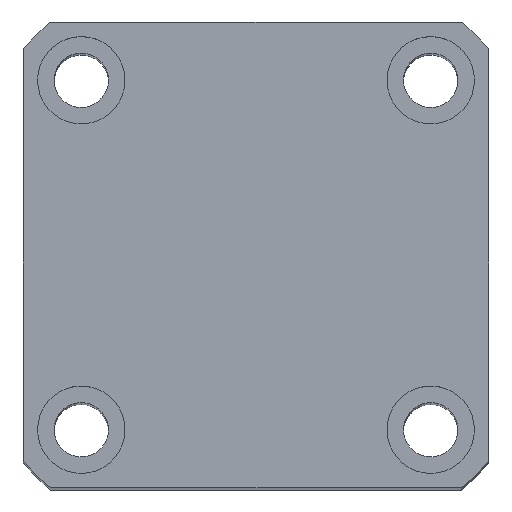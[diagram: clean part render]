
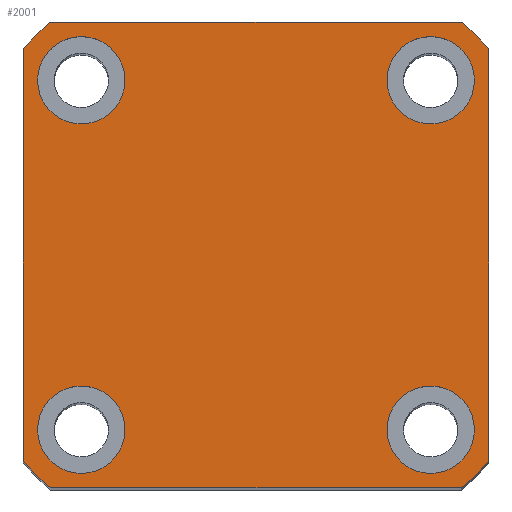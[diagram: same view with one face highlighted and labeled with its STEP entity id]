
A CAD part, top view. The second image highlights one B-rep face of the part: STEP entity #2001.
In plain terms, the highlighted planar face has unit normal (0, 0, 1) as drawn and (1, 0, 0) by its records, which use the part's own axes.
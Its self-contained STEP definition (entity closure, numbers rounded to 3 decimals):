
#103 = CARTESIAN_POINT ( 'NONE',  ( 120., -24., 21.166 ) ) ;
#119 = DIRECTION ( 'NONE',  ( 0., 0., -1. ) ) ;
#204 = VERTEX_POINT ( 'NONE', #2451 ) ;
#418 = ORIENTED_EDGE ( 'NONE', *, *, #2774, .F. ) ;
#518 = VERTEX_POINT ( 'NONE', #3971 ) ;
#542 = DIRECTION ( 'NONE',  ( 1., 0., 0. ) ) ;
#568 = AXIS2_PLACEMENT_3D ( 'NONE', #6995, #3372, #7594 ) ;
#570 = CARTESIAN_POINT ( 'NONE',  ( 120., -18., -13.5 ) ) ;
#622 = AXIS2_PLACEMENT_3D ( 'NONE', #5365, #5288, #5206 ) ;
#765 = CARTESIAN_POINT ( 'NONE',  ( 120., -18., 18. ) ) ;
#792 = DIRECTION ( 'NONE',  ( 1., 0., 0. ) ) ;
#834 = VERTEX_POINT ( 'NONE', #7375 ) ;
#854 = DIRECTION ( 'NONE',  ( 1., 0., 0. ) ) ;
#932 = EDGE_CURVE ( 'NONE', #2044, #6137, #6318, .T. ) ;
#1179 = CARTESIAN_POINT ( 'NONE',  ( 120., -18., -22.5 ) ) ;
#1214 = FACE_BOUND ( 'NONE', #3570, .T. ) ;
#1225 = EDGE_LOOP ( 'NONE', ( #7751, #1446 ) ) ;
#1232 = VECTOR ( 'NONE', #5180, 1000. ) ;
#1252 = EDGE_CURVE ( 'NONE', #204, #518, #2801, .T. ) ;
#1380 = CARTESIAN_POINT ( 'NONE',  ( 120., -18., 13.5 ) ) ;
#1425 = DIRECTION ( 'NONE',  ( 0., 0., -1. ) ) ;
#1446 = ORIENTED_EDGE ( 'NONE', *, *, #6599, .F. ) ;
#1447 = CIRCLE ( 'NONE', #4514, 4.5 ) ;
#1450 = AXIS2_PLACEMENT_3D ( 'NONE', #2194, #6473, #2832 ) ;
#1724 = ORIENTED_EDGE ( 'NONE', *, *, #2722, .F. ) ;
#1790 = EDGE_CURVE ( 'NONE', #6442, #2048, #3662, .T. ) ;
#1803 = CIRCLE ( 'NONE', #622, 4.5 ) ;
#1919 = CIRCLE ( 'NONE', #6148, 4.5 ) ;
#1945 = EDGE_CURVE ( 'NONE', #6848, #5164, #1803, .T. ) ;
#2001 = ADVANCED_FACE ( 'NONE', ( #1214, #2674, #4334, #7525, #7326 ), #4910, .T. ) ;
#2037 = ORIENTED_EDGE ( 'NONE', *, *, #3239, .T. ) ;
#2044 = VERTEX_POINT ( 'NONE', #4094 ) ;
#2048 = VERTEX_POINT ( 'NONE', #3883 ) ;
#2194 = CARTESIAN_POINT ( 'NONE',  ( 120., 0., 0. ) ) ;
#2323 = CIRCLE ( 'NONE', #568, 32. ) ;
#2451 = CARTESIAN_POINT ( 'NONE',  ( 120., 24., -21.166 ) ) ;
#2456 = EDGE_CURVE ( 'NONE', #7725, #4564, #3267, .T. ) ;
#2661 = EDGE_CURVE ( 'NONE', #4771, #4131, #7931, .T. ) ;
#2674 = FACE_BOUND ( 'NONE', #5090, .T. ) ;
#2722 = EDGE_CURVE ( 'NONE', #3060, #5446, #5099, .T. ) ;
#2774 = EDGE_CURVE ( 'NONE', #5164, #6848, #1447, .T. ) ;
#2787 = EDGE_CURVE ( 'NONE', #5221, #834, #6140, .T. ) ;
#2801 = LINE ( 'NONE', #3138, #7823 ) ;
#2829 = EDGE_CURVE ( 'NONE', #6137, #204, #3306, .T. ) ;
#2832 = DIRECTION ( 'NONE',  ( 0., 0., -1. ) ) ;
#2862 = AXIS2_PLACEMENT_3D ( 'NONE', #3171, #7399, #3807 ) ;
#3003 = ORIENTED_EDGE ( 'NONE', *, *, #6455, .F. ) ;
#3060 = VERTEX_POINT ( 'NONE', #1380 ) ;
#3124 = CARTESIAN_POINT ( 'NONE',  ( 120., -18., -18. ) ) ;
#3138 = CARTESIAN_POINT ( 'NONE',  ( 120., 24., 24. ) ) ;
#3141 = EDGE_CURVE ( 'NONE', #518, #6442, #5755, .T. ) ;
#3164 = DIRECTION ( 'NONE',  ( 0., 0., 1. ) ) ;
#3171 = CARTESIAN_POINT ( 'NONE',  ( 120., -18., -18. ) ) ;
#3239 = EDGE_CURVE ( 'NONE', #2048, #7725, #2323, .T. ) ;
#3267 = LINE ( 'NONE', #7083, #7709 ) ;
#3298 = DIRECTION ( 'NONE',  ( 1., 0., 0. ) ) ;
#3305 = ORIENTED_EDGE ( 'NONE', *, *, #2829, .T. ) ;
#3306 = CIRCLE ( 'NONE', #5299, 32. ) ;
#3311 = AXIS2_PLACEMENT_3D ( 'NONE', #3124, #7350, #3751 ) ;
#3337 = DIRECTION ( 'NONE',  ( 1., 0., 0. ) ) ;
#3372 = DIRECTION ( 'NONE',  ( 1., 0., 0. ) ) ;
#3395 = ORIENTED_EDGE ( 'NONE', *, *, #4834, .F. ) ;
#3397 = EDGE_CURVE ( 'NONE', #4564, #2044, #5182, .T. ) ;
#3460 = DIRECTION ( 'NONE',  ( 0., 0., -1. ) ) ;
#3496 = ORIENTED_EDGE ( 'NONE', *, *, #3141, .T. ) ;
#3570 = EDGE_LOOP ( 'NONE', ( #5851, #3003 ) ) ;
#3587 = AXIS2_PLACEMENT_3D ( 'NONE', #4462, #4408, #4381 ) ;
#3662 = LINE ( 'NONE', #4352, #7056 ) ;
#3688 = EDGE_LOOP ( 'NONE', ( #6329, #3305, #6529, #3496, #5098, #2037, #5282, #3895 ) ) ;
#3703 = AXIS2_PLACEMENT_3D ( 'NONE', #765, #5103, #1425 ) ;
#3751 = DIRECTION ( 'NONE',  ( 0., 0., -1. ) ) ;
#3807 = DIRECTION ( 'NONE',  ( 0., 0., -1. ) ) ;
#3883 = CARTESIAN_POINT ( 'NONE',  ( 120., -21.166, 24. ) ) ;
#3895 = ORIENTED_EDGE ( 'NONE', *, *, #3397, .T. ) ;
#3916 = DIRECTION ( 'NONE',  ( 1., 0., 0. ) ) ;
#3966 = CIRCLE ( 'NONE', #3311, 4.5 ) ;
#3971 = CARTESIAN_POINT ( 'NONE',  ( 120., 24., 21.166 ) ) ;
#4094 = CARTESIAN_POINT ( 'NONE',  ( 120., -21.166, -24. ) ) ;
#4131 = VERTEX_POINT ( 'NONE', #570 ) ;
#4210 = AXIS2_PLACEMENT_3D ( 'NONE', #4313, #542, #4917 ) ;
#4311 = CARTESIAN_POINT ( 'NONE',  ( 120., -18., 22.5 ) ) ;
#4313 = CARTESIAN_POINT ( 'NONE',  ( 120., -18., 18. ) ) ;
#4334 = FACE_BOUND ( 'NONE', #6410, .T. ) ;
#4352 = CARTESIAN_POINT ( 'NONE',  ( 120., 24., 24. ) ) ;
#4381 = DIRECTION ( 'NONE',  ( 0., 0., -1. ) ) ;
#4408 = DIRECTION ( 'NONE',  ( 1., 0., 0. ) ) ;
#4462 = CARTESIAN_POINT ( 'NONE',  ( 120., 0., 0. ) ) ;
#4514 = AXIS2_PLACEMENT_3D ( 'NONE', #4545, #792, #5130 ) ;
#4545 = CARTESIAN_POINT ( 'NONE',  ( 120., 18., -18. ) ) ;
#4564 = VERTEX_POINT ( 'NONE', #5341 ) ;
#4595 = CARTESIAN_POINT ( 'NONE',  ( 120., 0., 0. ) ) ;
#4771 = VERTEX_POINT ( 'NONE', #1179 ) ;
#4834 = EDGE_CURVE ( 'NONE', #5446, #3060, #7543, .T. ) ;
#4910 = PLANE ( 'NONE',  #3587 ) ;
#4917 = DIRECTION ( 'NONE',  ( 0., 0., -1. ) ) ;
#4919 = AXIS2_PLACEMENT_3D ( 'NONE', #6954, #3337, #7558 ) ;
#5090 = EDGE_LOOP ( 'NONE', ( #1724, #3395 ) ) ;
#5098 = ORIENTED_EDGE ( 'NONE', *, *, #1790, .T. ) ;
#5099 = CIRCLE ( 'NONE', #3703, 4.5 ) ;
#5103 = DIRECTION ( 'NONE',  ( 1., 0., 0. ) ) ;
#5130 = DIRECTION ( 'NONE',  ( 0., 0., -1. ) ) ;
#5164 = VERTEX_POINT ( 'NONE', #5746 ) ;
#5177 = DIRECTION ( 'NONE',  ( 0., 0., -1. ) ) ;
#5180 = DIRECTION ( 'NONE',  ( 0., 1., 0. ) ) ;
#5182 = CIRCLE ( 'NONE', #1450, 32. ) ;
#5205 = CARTESIAN_POINT ( 'NONE',  ( 120., 24., -24. ) ) ;
#5206 = DIRECTION ( 'NONE',  ( 0., 0., -1. ) ) ;
#5221 = VERTEX_POINT ( 'NONE', #7621 ) ;
#5282 = ORIENTED_EDGE ( 'NONE', *, *, #2456, .T. ) ;
#5288 = DIRECTION ( 'NONE',  ( 1., 0., 0. ) ) ;
#5299 = AXIS2_PLACEMENT_3D ( 'NONE', #4595, #854, #5177 ) ;
#5341 = CARTESIAN_POINT ( 'NONE',  ( 120., -24., -21.166 ) ) ;
#5365 = CARTESIAN_POINT ( 'NONE',  ( 120., 18., -18. ) ) ;
#5374 = ORIENTED_EDGE ( 'NONE', *, *, #1945, .F. ) ;
#5446 = VERTEX_POINT ( 'NONE', #4311 ) ;
#5746 = CARTESIAN_POINT ( 'NONE',  ( 120., 18., -22.5 ) ) ;
#5755 = CIRCLE ( 'NONE', #7741, 32. ) ;
#5851 = ORIENTED_EDGE ( 'NONE', *, *, #2661, .F. ) ;
#6116 = CARTESIAN_POINT ( 'NONE',  ( 120., 21.166, 24. ) ) ;
#6137 = VERTEX_POINT ( 'NONE', #7652 ) ;
#6140 = CIRCLE ( 'NONE', #4919, 4.5 ) ;
#6148 = AXIS2_PLACEMENT_3D ( 'NONE', #7506, #3916, #119 ) ;
#6318 = LINE ( 'NONE', #5205, #1232 ) ;
#6329 = ORIENTED_EDGE ( 'NONE', *, *, #932, .T. ) ;
#6410 = EDGE_LOOP ( 'NONE', ( #418, #5374 ) ) ;
#6442 = VERTEX_POINT ( 'NONE', #6116 ) ;
#6455 = EDGE_CURVE ( 'NONE', #4131, #4771, #3966, .T. ) ;
#6473 = DIRECTION ( 'NONE',  ( 1., 0., 0. ) ) ;
#6529 = ORIENTED_EDGE ( 'NONE', *, *, #1252, .T. ) ;
#6599 = EDGE_CURVE ( 'NONE', #834, #5221, #1919, .T. ) ;
#6848 = VERTEX_POINT ( 'NONE', #6956 ) ;
#6915 = CARTESIAN_POINT ( 'NONE',  ( 120., 0., 0. ) ) ;
#6954 = CARTESIAN_POINT ( 'NONE',  ( 120., 18., 18. ) ) ;
#6956 = CARTESIAN_POINT ( 'NONE',  ( 120., 18., -13.5 ) ) ;
#6995 = CARTESIAN_POINT ( 'NONE',  ( 120., 0., 0. ) ) ;
#7056 = VECTOR ( 'NONE', #7863, 1000. ) ;
#7083 = CARTESIAN_POINT ( 'NONE',  ( 120., -24., 24. ) ) ;
#7326 = FACE_OUTER_BOUND ( 'NONE', #3688, .T. ) ;
#7350 = DIRECTION ( 'NONE',  ( 1., 0., 0. ) ) ;
#7375 = CARTESIAN_POINT ( 'NONE',  ( 120., 18., 22.5 ) ) ;
#7399 = DIRECTION ( 'NONE',  ( 1., 0., 0. ) ) ;
#7506 = CARTESIAN_POINT ( 'NONE',  ( 120., 18., 18. ) ) ;
#7514 = DIRECTION ( 'NONE',  ( 0., 0., -1. ) ) ;
#7525 = FACE_BOUND ( 'NONE', #1225, .T. ) ;
#7543 = CIRCLE ( 'NONE', #4210, 4.5 ) ;
#7558 = DIRECTION ( 'NONE',  ( 0., 0., -1. ) ) ;
#7594 = DIRECTION ( 'NONE',  ( 0., 0., -1. ) ) ;
#7621 = CARTESIAN_POINT ( 'NONE',  ( 120., 18., 13.5 ) ) ;
#7652 = CARTESIAN_POINT ( 'NONE',  ( 120., 21.166, -24. ) ) ;
#7709 = VECTOR ( 'NONE', #3460, 1000. ) ;
#7725 = VERTEX_POINT ( 'NONE', #103 ) ;
#7741 = AXIS2_PLACEMENT_3D ( 'NONE', #6915, #3298, #7514 ) ;
#7751 = ORIENTED_EDGE ( 'NONE', *, *, #2787, .F. ) ;
#7823 = VECTOR ( 'NONE', #3164, 1000. ) ;
#7863 = DIRECTION ( 'NONE',  ( 0., -1., 0. ) ) ;
#7931 = CIRCLE ( 'NONE', #2862, 4.5 ) ;
